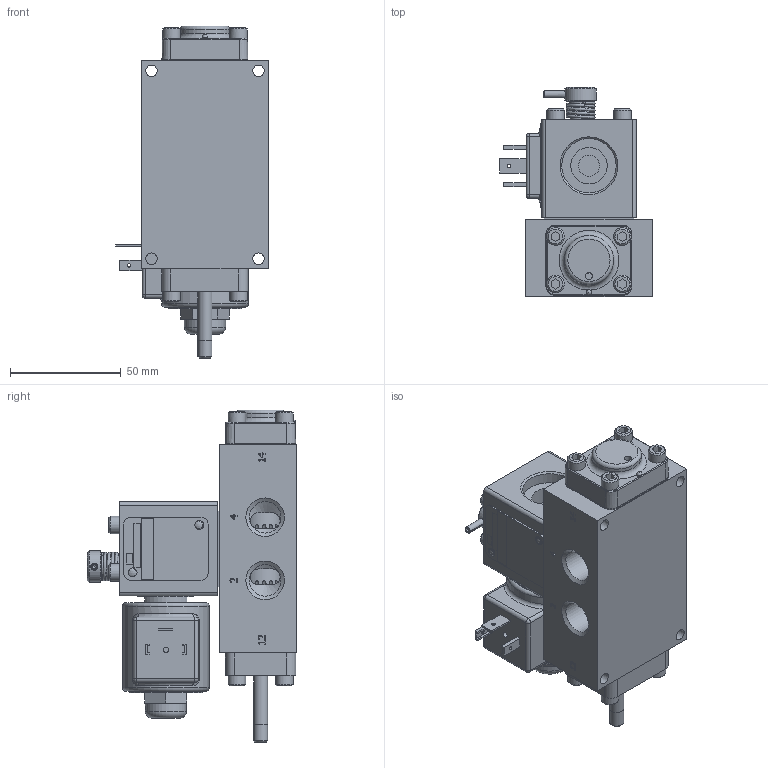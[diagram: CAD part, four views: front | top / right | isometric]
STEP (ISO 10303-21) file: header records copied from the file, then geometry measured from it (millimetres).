
FILE_DESCRIPTION(/* description */ (''),/* implementation_level */ '2;1');
FILE_NAME(/* name */ 'D:\Website New\Valves\Classic\SO\stp\SO3EDONLK.stp',/* time_stamp */ '2020-02-19T21:35:46-05:00',/* author */ ('RMcKenna'),/* organization */ (''),/* preprocessor_version */ 'ST-DEVELOPER v17',/* originating_system */ 'Autodesk Inventor 2018',/* authorisation */ '');
FILE_SCHEMA (('AUTOMOTIVE_DESIGN { 1 0 10303 214 3 1 1 }'));
Products named in the file (1): Part9
Bounding box: 68.87 x 94.76 x 150.18 mm (x, y, z)
Volume: 312649.4 mm3; surface area: 92498.9 mm2
Topology: 1 solids, 33 shells, 1573 faces, 3968 edges, 2585 vertices
Faces by surface type: plane 728, cylinder 302, cone 288, bspline 142, torus 106, sphere 7
Full cylindrical faces by diameter (mm): 1.041 x1, 1.321 x1, 1.397 x1, 1.6 x3, 2.07 x2, 2.261 x2, 2.35 x1, 2.381 x2, 2.54 x1, 2.778 x2, 3.048 x3, 3.175 x6, 3.302 x1, 3.683 x12, 3.912 x1, 3.962 x1, 4.366 x8, 4.826 x16, 5.105 x4, 5.156 x12, 5.159 x5, 5.537 x5, 5.639 x1, 6.35 x3, 6.629 x2, 7.671 x1, 7.938 x12, 7.95 x1, 8.153 x1, 9.474 x6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
Entity records: 54813 total; most frequent: CARTESIAN_POINT 15977, ORIENTED_EDGE 7878, DIRECTION 7433, EDGE_CURVE 3939, AXIS2_PLACEMENT_3D 2728, VERTEX_POINT 2587, LINE 1977, VECTOR 1977
